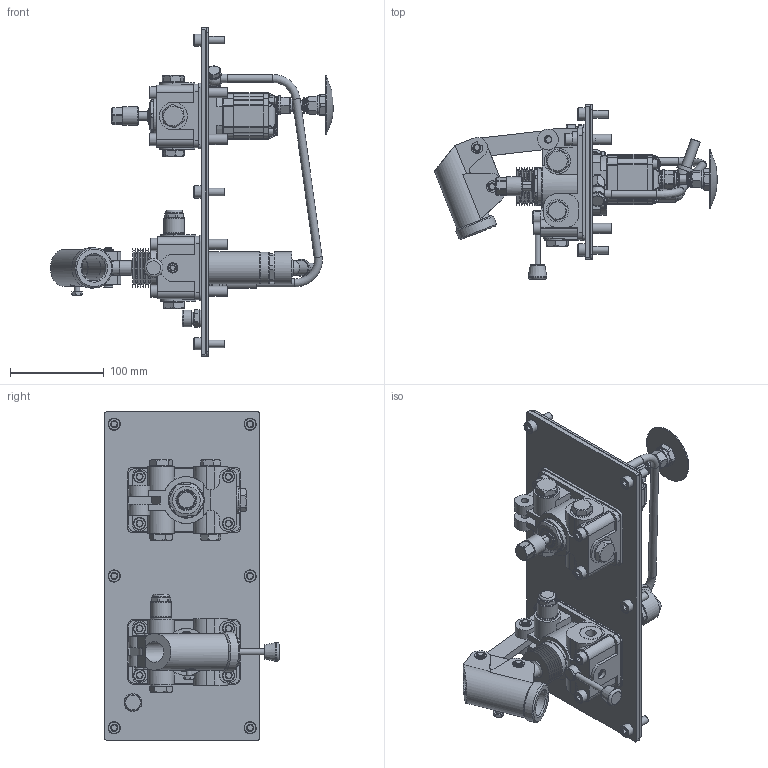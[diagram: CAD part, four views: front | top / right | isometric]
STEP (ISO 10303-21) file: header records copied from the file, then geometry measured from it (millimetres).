
FILE_DESCRIPTION(/* description */ ('Unknown'),/* implementation_level */ '2;1');
FILE_NAME(/* name */ 'ZES--DE--WOT',/* time_stamp */ '2024-11-28T16:51:59+01:00',/* author */ ('Unknown'),/* organization */ ('Unknown'),/* preprocessor_version */ 'ST-DEVELOPER v19.4',/* originating_system */ 'Solid Edge',/* authorisation */ 'Unknown');
FILE_SCHEMA (('AUTOMOTIVE_DESIGN {1 0 10303 214 3 1 1}'));
Length unit declared in the file: millimetre
Products named in the file (1): ZES--DE--WOT
Bounding box: 302.04 x 186 x 350 mm (x, y, z)
Surface area: 377131.4 mm2
Topology: 1 solids, 142 shells, 1457 faces, 4361 edges, 3022 vertices
Faces by surface type: plane 728, cylinder 435, cone 152, torus 103, bspline 35, sphere 4
Full cylindrical faces by diameter (mm): 4 x1, 5 x1, 5.8 x1, 6 x6, 7.8 x6, 8 x13, 8.4 x3, 8.8 x6, 9 x2, 10 x12, 10.88 x8, 11 x6, 11.445 x2, 11.5 x1, 11.8 x2, 12 x3, 13 x14, 13.157 x1, 13.5 x1, 14 x1, 15 x1, 15.3 x1, 15.8 x1, 16 x9, 17 x3, 18 x4, 19 x3, 20 x5, 22 x6, 23 x5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
Entity records: 60877 total; most frequent: CARTESIAN_POINT 20473, DIRECTION 7771, ORIENTED_EDGE 6499, EDGE_CURVE 3880, AXIS2_PLACEMENT_3D 3019, VERTEX_POINT 2895, FACE_BOUND 2067, EDGE_LOOP 2062
